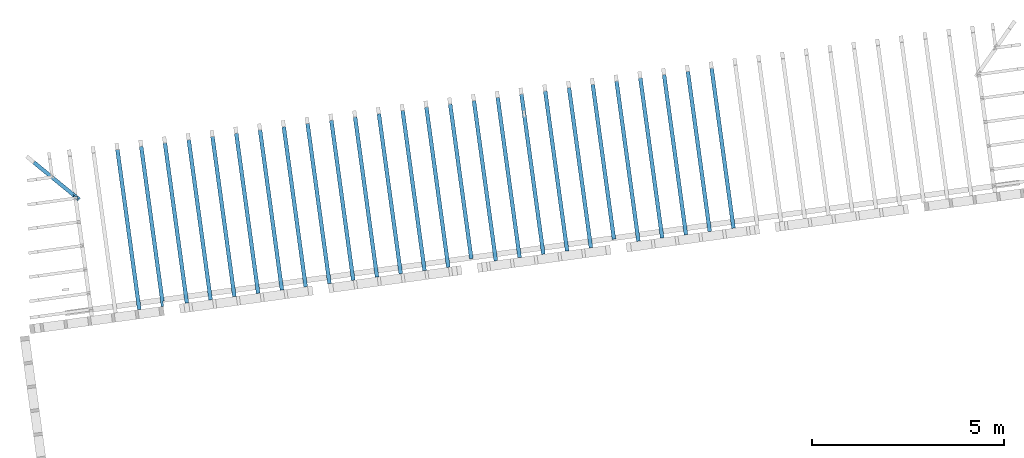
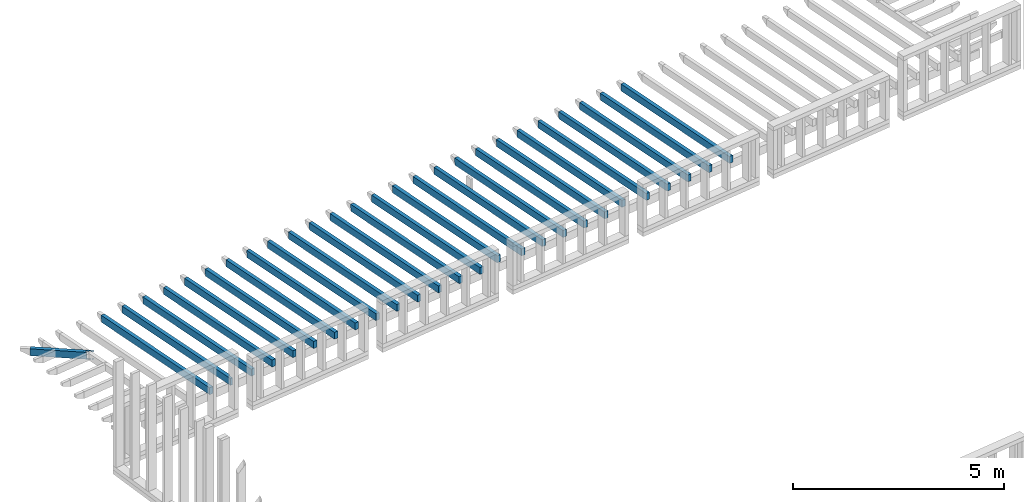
# One storey, part 10 of 16: 27 building element parts, 27 elements without a shape of their own.
"""IFC2X3 building model written with IfcOpenShell, lengths in metres."""

from ifc_helpers import new_model, entity, si_unit, converted_unit, derived_unit, money_unit, direction, frame, origin_with_axes, place, context, subcontext, project, spatial, faceted_brep, material, type_object, element, aggregate, save


model = new_model("IFC2X3")

# Units and contexts
model_context = context("Model", 3, precision=1e-05, world=origin_with_axes(), true_north=direction((0.0, 1.0)))
body_context = subcontext(model_context, "Body", "Model", "MODEL_VIEW")
ifc_project = project(units=[si_unit("LENGTHUNIT", "METRE"), si_unit("AREAUNIT", "SQUARE_METRE"), si_unit("VOLUMEUNIT", "CUBIC_METRE"), converted_unit("PLANEANGLEUNIT", "DEGREE", entity("IfcPlaneAngleMeasure", 0.0174532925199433), si_unit("PLANEANGLEUNIT", "RADIAN"), dimensions=[0, 0, 0, 0, 0, 0, 0]), money_unit("EUR"), converted_unit("TIMEUNIT", "Year", entity("IfcTimeMeasure", 31557600.0), si_unit("TIMEUNIT", "SECOND"), dimensions=[0, 0, 1, 0, 0, 0, 0]), si_unit("MASSUNIT", "GRAM", prefix="KILO"), si_unit("THERMODYNAMICTEMPERATUREUNIT", "DEGREE_CELSIUS"), si_unit("LUMINOUSINTENSITYUNIT", "LUMEN"), si_unit("ENERGYUNIT", "JOULE", prefix="MEGA"), derived_unit("THERMALCONDUCTANCEUNIT", [(si_unit("POWERUNIT", "WATT"), 1), (si_unit("LENGTHUNIT", "METRE"), -1), (si_unit("THERMODYNAMICTEMPERATUREUNIT", "KELVIN"), -1)]), derived_unit("SPECIFICHEATCAPACITYUNIT", [(si_unit("ENERGYUNIT", "JOULE"), 1), (si_unit("MASSUNIT", "GRAM", prefix="KILO"), -1), (si_unit("THERMODYNAMICTEMPERATUREUNIT", "KELVIN"), -1)]), derived_unit("MASSDENSITYUNIT", [(si_unit("MASSUNIT", "GRAM", prefix="KILO"), 1), (si_unit("VOLUMEUNIT", "CUBIC_METRE"), -1)])], contexts=[model_context])

# Site, building, storey
site_placement = place(None, origin_with_axes())
site = spatial("IfcSite", under=ifc_project, at=site_placement, Name="Gelände", CompositionType="ELEMENT")
building_placement = place(site_placement, origin_with_axes())
building = spatial("IfcBuilding", under=site, at=building_placement, Name="Gebäude", CompositionType="ELEMENT")
storey_placement = place(building_placement, frame((0.0, 0.0, 3.0), z_axis=(0.0, 0.0, 1.0), x_axis=(1.0, 0.0, 0.0)))
storey = spatial("IfcBuildingStorey", under=building, at=storey_placement, Name="ZG", CompositionType="ELEMENT", Elevation=3.0)

# Beam, building element part
beam_type_1 = type_object("IfcBeamType", Name="Verschiedene Strukturen - 2 Segmente - 100 x 200 x 4381 (4214+167)", PredefinedType="NOTDEFINED")
beam_1_placement = place(storey_placement, frame((101.7599355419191, -133.3067339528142, 1.028226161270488), z_axis=(0.0, 0.0, 1.0), x_axis=(0.9907484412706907, 0.1357111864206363, 0.0)))
beam_1 = element("IfcBeam", 1, at=beam_1_placement, inside=storey, type_object=beam_type_1, Name="Unterzug-034")
ifc_material = material(Name="Holz, Bauholz-hart")
building_element_part_1_placement = place(beam_1_placement, origin_with_axes())
building_element_part_1 = element("IfcBuildingElementPart", 2, at=building_element_part_1_placement, material=ifc_material, Name="Holz, Bauholz-hart", context=body_context, shape_type="Brep", body=[
    faceted_brep([(-0.04999999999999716, 0.0, -0.2002744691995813), (-0.05000000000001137, 4.197525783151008, -0.4202574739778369), (0.04999999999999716, 4.197525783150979, -0.4202574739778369), (0.04999999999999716, 0.0, -0.2002744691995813), (-0.04999999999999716, 0.0, 0.0), (-0.05000000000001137, 4.207992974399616, -0.2205315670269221), (0.04999999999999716, 4.207992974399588, -0.2205315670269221), (0.04999999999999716, 0.0, 0.0)], [[[0, 1, 2, 3]], [[4, 5, 1, 0]], [[2, 1, 5, 6]], [[3, 2, 6, 7]], [[4, 0, 3, 7]], [[7, 6, 5, 4]]]),
])
aggregate(beam_1, [building_element_part_1])

beam_2_placement = place(storey_placement, frame((102.3791533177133, -133.2219144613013, 1.028226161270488), z_axis=(0.0, 0.0, 1.0), x_axis=(0.9907484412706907, 0.1357111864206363, 0.0)))
beam_2 = element("IfcBeam", 3, at=beam_2_placement, inside=storey, type_object=beam_type_1, Name="Unterzug-034")
building_element_part_2_placement = place(beam_2_placement, origin_with_axes())
building_element_part_2 = element("IfcBuildingElementPart", 4, at=building_element_part_2_placement, material=ifc_material, Name="Holz, Bauholz-hart", context=body_context, shape_type="Brep", body=[
    faceted_brep([(-0.04999999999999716, 0.0, -0.2002744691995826), (-0.04999999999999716, 4.197525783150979, -0.4202574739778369), (0.05000000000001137, 4.197525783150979, -0.4202574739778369), (0.04999999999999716, 0.0, -0.2002744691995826), (-0.04999999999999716, 0.0, 0.0), (-0.04999999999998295, 4.207992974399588, -0.2205315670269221), (0.05000000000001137, 4.207992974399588, -0.2205315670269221), (0.04999999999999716, 0.0, 0.0)], [[[0, 1, 2, 3]], [[4, 5, 1, 0]], [[2, 1, 5, 6]], [[3, 2, 6, 7]], [[4, 0, 3, 7]], [[7, 6, 5, 4]]]),
])
aggregate(beam_2, [building_element_part_2])

beam_3_placement = place(storey_placement, frame((102.9983710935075, -133.1370949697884, 1.028226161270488), z_axis=(0.0, 0.0, 1.0), x_axis=(0.9907484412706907, 0.1357111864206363, 0.0)))
beam_3 = element("IfcBeam", 5, at=beam_3_placement, inside=storey, type_object=beam_type_1, Name="Unterzug-034")
building_element_part_3_placement = place(beam_3_placement, origin_with_axes())
building_element_part_3 = element("IfcBuildingElementPart", 6, at=building_element_part_3_placement, material=ifc_material, Name="Holz, Bauholz-hart", context=body_context, shape_type="Brep", body=[
    faceted_brep([(-0.04999999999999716, 0.0, -0.2002744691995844), (-0.04999999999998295, 4.197525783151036, -0.4202574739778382), (0.05000000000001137, 4.197525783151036, -0.4202574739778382), (0.05000000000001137, 0.0, -0.2002744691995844), (-0.04999999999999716, 0.0, 0.0), (-0.04999999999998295, 4.207992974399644, -0.2205315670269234), (0.05000000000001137, 4.207992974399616, -0.2205315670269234), (0.05000000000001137, 0.0, 0.0)], [[[0, 1, 2, 3]], [[4, 5, 1, 0]], [[2, 1, 5, 6]], [[3, 2, 6, 7]], [[4, 0, 3, 7]], [[7, 6, 5, 4]]]),
])
aggregate(beam_3, [building_element_part_3])

beam_4_placement = place(storey_placement, frame((100.5214999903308, -133.47637293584, 1.028226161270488), z_axis=(0.0, 0.0, 1.0), x_axis=(0.9907484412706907, 0.1357111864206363, 0.0)))
beam_4 = element("IfcBeam", 7, at=beam_4_placement, inside=storey, type_object=beam_type_1, Name="Unterzug-034")
building_element_part_4_placement = place(beam_4_placement, origin_with_axes())
building_element_part_4 = element("IfcBuildingElementPart", 8, at=building_element_part_4_placement, material=ifc_material, Name="Holz, Bauholz-hart", context=body_context, shape_type="Brep", body=[
    faceted_brep([(-0.05000000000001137, 0.0, -0.2002744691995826), (-0.05000000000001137, 4.197525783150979, -0.4202574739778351), (0.04999999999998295, 4.197525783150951, -0.4202574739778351), (0.04999999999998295, 0.0, -0.2002744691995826), (-0.05000000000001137, 0.0, 0.0), (-0.05000000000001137, 4.207992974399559, -0.2205315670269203), (0.04999999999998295, 4.207992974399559, -0.2205315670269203), (0.04999999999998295, 0.0, 0.0)], [[[0, 1, 2, 3]], [[4, 5, 1, 0]], [[2, 1, 5, 6]], [[3, 2, 6, 7]], [[4, 0, 3, 7]], [[7, 6, 5, 4]]]),
])
aggregate(beam_4, [building_element_part_4])

beam_5_placement = place(storey_placement, frame((101.1407177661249, -133.3915534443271, 1.028226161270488), z_axis=(0.0, 0.0, 1.0), x_axis=(0.9907484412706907, 0.1357111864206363, 0.0)))
beam_5 = element("IfcBeam", 9, at=beam_5_placement, inside=storey, type_object=beam_type_1, Name="Unterzug-034")
building_element_part_5_placement = place(beam_5_placement, origin_with_axes())
building_element_part_5 = element("IfcBuildingElementPart", 10, at=building_element_part_5_placement, material=ifc_material, Name="Holz, Bauholz-hart", context=body_context, shape_type="Brep", body=[
    faceted_brep([(-0.04999999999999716, 0.0, -0.2002744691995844), (-0.04999999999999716, 4.197525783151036, -0.4202574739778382), (0.05000000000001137, 4.197525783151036, -0.4202574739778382), (0.04999999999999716, 0.0, -0.2002744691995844), (-0.04999999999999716, 0.0, 0.0), (-0.04999999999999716, 4.207992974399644, -0.2205315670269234), (0.05000000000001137, 4.207992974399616, -0.2205315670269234), (0.04999999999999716, 0.0, 0.0)], [[[0, 1, 2, 3]], [[4, 5, 1, 0]], [[2, 1, 5, 6]], [[3, 2, 6, 7]], [[4, 0, 3, 7]], [[7, 6, 5, 4]]]),
])
aggregate(beam_5, [building_element_part_5])

beam_6_placement = place(storey_placement, frame((98.6638466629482, -133.7308314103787, 1.028226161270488), z_axis=(0.0, 0.0, 1.0), x_axis=(0.9907484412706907, 0.1357111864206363, 0.0)))
beam_6 = element("IfcBeam", 11, at=beam_6_placement, inside=storey, type_object=beam_type_1, Name="Unterzug-034")
building_element_part_6_placement = place(beam_6_placement, origin_with_axes())
building_element_part_6 = element("IfcBuildingElementPart", 12, at=building_element_part_6_placement, material=ifc_material, Name="Holz, Bauholz-hart", context=body_context, shape_type="Brep", body=[
    faceted_brep([(-0.04999999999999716, 0.0, -0.2002744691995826), (-0.04999999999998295, 4.197525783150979, -0.4202574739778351), (0.04999999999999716, 4.197525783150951, -0.4202574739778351), (0.05000000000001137, 0.0, -0.2002744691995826), (-0.04999999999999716, 0.0, 0.0), (-0.04999999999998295, 4.207992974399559, -0.2205315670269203), (0.04999999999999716, 4.207992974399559, -0.2205315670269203), (0.05000000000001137, 0.0, 0.0)], [[[0, 1, 2, 3]], [[4, 5, 1, 0]], [[2, 1, 5, 6]], [[3, 2, 6, 7]], [[4, 0, 3, 7]], [[7, 6, 5, 4]]]),
])
aggregate(beam_6, [building_element_part_6])

beam_7_placement = place(storey_placement, frame((98.04462888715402, -133.8156509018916, 1.028226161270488), z_axis=(0.0, 0.0, 1.0), x_axis=(0.9907484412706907, 0.1357111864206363, 0.0)))
beam_7 = element("IfcBeam", 13, at=beam_7_placement, inside=storey, type_object=beam_type_1, Name="Unterzug-034")
building_element_part_7_placement = place(beam_7_placement, origin_with_axes())
building_element_part_7 = element("IfcBuildingElementPart", 14, at=building_element_part_7_placement, material=ifc_material, Name="Holz, Bauholz-hart", context=body_context, shape_type="Brep", body=[
    faceted_brep([(-0.04999999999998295, 0.0, -0.2002744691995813), (-0.04999999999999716, 4.197525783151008, -0.4202574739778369), (0.05000000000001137, 4.197525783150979, -0.4202574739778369), (0.04999999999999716, 0.0, -0.2002744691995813), (-0.04999999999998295, 0.0, 0.0), (-0.04999999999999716, 4.207992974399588, -0.2205315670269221), (0.05000000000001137, 4.207992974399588, -0.2205315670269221), (0.04999999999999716, 0.0, 0.0)], [[[0, 1, 2, 3]], [[4, 5, 1, 0]], [[2, 1, 5, 6]], [[3, 2, 6, 7]], [[4, 0, 3, 7]], [[7, 6, 5, 4]]]),
])
aggregate(beam_7, [building_element_part_7])

beam_type_2 = type_object("IfcBeamType", Name="Verschiedene Strukturen - 2 Segmente - 100 x 200 x 1775 (1532+243)", PredefinedType="NOTDEFINED")
beam_8_placement = place(storey_placement, frame((85.85258350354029, -132.3106168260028, 0.8633666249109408), z_axis=(0.0, 0.0, 1.0), x_axis=(0.6344192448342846, 0.7729891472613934, 0.0)))
beam_8 = element("IfcBeam", 15, at=beam_8_placement, inside=storey, type_object=beam_type_2, Name="Unterzug-034")
building_element_part_8_placement = place(beam_8_placement, origin_with_axes())
building_element_part_8 = element("IfcBuildingElementPart", 16, at=building_element_part_8_placement, material=ifc_material, Name="Holz, Bauholz-hart", context=body_context, shape_type="Brep", body=[
    faceted_brep([(0.03318319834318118, -0.03775219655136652, 0.001451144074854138), (3.484915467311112e-07, -0.006999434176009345, 0.0002690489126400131), (0.03318319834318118, -0.03775219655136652, 0.000269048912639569), (0.01114207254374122, -0.06153501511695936, 0.002365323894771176), (3.253634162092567e-07, -0.06153501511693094, 0.002365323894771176), (3.202648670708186e-07, -0.07355719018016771, 0.002827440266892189), (3.202648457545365e-07, -0.1275085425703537, 0.004901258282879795), (0.05000000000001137, -0.1275085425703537, 0.004901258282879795), (0.05000000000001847, 1.403264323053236, -0.05393960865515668), (-0.04999999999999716, 1.403264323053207, -0.05393960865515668), (-0.05000000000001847, 0.0393392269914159, -0.001512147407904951), (-0.04016211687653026, 0.03022180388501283, -0.001161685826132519), (3.826553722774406e-07, 0.0735579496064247, -0.002827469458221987), (0.04999999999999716, 0.1275085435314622, -0.006682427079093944), (0.05000000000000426, -0.01960652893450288, -0.001027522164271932), (0.005994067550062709, -0.06708981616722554, 0.002365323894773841), (0.05000000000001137, -0.1275085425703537, 0.003120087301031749), (0.04999999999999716, 0.1275085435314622, -0.2050489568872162), (0.04999999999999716, 1.395582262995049, -0.2537920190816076), (-0.04999999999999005, 1.395582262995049, -0.2537920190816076), (-0.04999999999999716, -0.02233682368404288, -0.197634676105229), (-0.05000000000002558, 0.0196065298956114, -0.1992469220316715), (-0.05000000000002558, 0.0196065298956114, -0.197634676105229), (-0.05000000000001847, 0.0393392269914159, -0.197634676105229), (-0.04999999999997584, -0.06537746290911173, -0.197634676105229), (-0.04016211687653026, 0.03022180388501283, -0.197634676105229), (-0.003558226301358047, 0.06971813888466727, -0.2028275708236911), (-0.003558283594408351, -0.06537746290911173, -0.197634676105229)], [[[0, 1, 2]], [[3, 4, 5, 6, 7, 8, 9, 10, 11, 12, 1, 0]], [[13, 14, 2, 1, 12]], [[3, 0, 2, 15]], [[3, 15, 4]], [[4, 15, 5]], [[6, 5, 15, 2, 14, 16]], [[6, 16, 7]], [[14, 13, 17, 18, 8, 7, 16]], [[19, 9, 8, 18]], [[20, 21, 22, 23, 10, 9, 19, 24]], [[23, 25, 11, 10]], [[11, 25, 22, 21, 26, 17, 13, 12]], [[17, 26, 27, 24, 19, 18]], [[21, 20, 27, 26]], [[23, 22, 25]], [[24, 27, 20]]]),
    faceted_brep([(-0.003558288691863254, -0.07739700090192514, -0.1971726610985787), (-0.02119600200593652, -0.09642844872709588, -0.1958127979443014), (-0.05000000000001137, -0.1275085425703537, -0.1935920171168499), (-0.003558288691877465, -0.1275085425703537, -0.1952464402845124), (-0.02119600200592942, -0.0964284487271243, -0.1964411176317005), (-0.04999999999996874, -0.06973386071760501, -0.1958127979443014), (-0.04999999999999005, -0.1275085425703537, -0.1952464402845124), (-0.04999999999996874, -0.06973386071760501, -0.197467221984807)], [[[0, 1, 2, 3]], [[0, 4, 1]], [[1, 5, 2]], [[3, 2, 6]], [[6, 7, 4, 0, 3]], [[7, 5, 1, 4]], [[6, 2, 5, 7]]]),
])
aggregate(beam_8, [building_element_part_8])

beam_9_placement = place(storey_placement, frame((87.51792669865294, -135.2575822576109, 1.028226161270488), z_axis=(0.0, 0.0, 1.0), x_axis=(0.9907484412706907, 0.1357111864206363, 0.0)))
beam_9 = element("IfcBeam", 17, at=beam_9_placement, inside=storey, type_object=beam_type_1, Name="Unterzug-034")
building_element_part_9_placement = place(beam_9_placement, origin_with_axes())
building_element_part_9 = element("IfcBuildingElementPart", 18, at=building_element_part_9_placement, material=ifc_material, Name="Holz, Bauholz-hart", context=body_context, shape_type="Brep", body=[
    faceted_brep([(-0.04999999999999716, 0.0, -0.2002744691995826), (-0.04999999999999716, 4.197525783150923, -0.4202574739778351), (0.04999999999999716, 4.197525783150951, -0.4202574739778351), (0.04999999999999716, 0.0, -0.2002744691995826), (-0.04999999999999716, 0.0, 0.0), (-0.04999999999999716, 4.207992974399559, -0.2205315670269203), (0.04999999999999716, 4.207992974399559, -0.2205315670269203), (0.04999999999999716, 0.0, 0.0)], [[[0, 1, 2, 3]], [[4, 5, 1, 0]], [[2, 1, 5, 6]], [[3, 2, 6, 7]], [[4, 0, 3, 7]], [[7, 6, 5, 4]]]),
])
aggregate(beam_9, [building_element_part_9])

beam_10_placement = place(storey_placement, frame((88.13714447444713, -135.172762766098, 1.028226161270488), z_axis=(0.0, 0.0, 1.0), x_axis=(0.9907484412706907, 0.1357111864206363, 0.0)))
beam_10 = element("IfcBeam", 19, at=beam_10_placement, inside=storey, type_object=beam_type_1, Name="Unterzug-034")
building_element_part_10_placement = place(beam_10_placement, origin_with_axes())
building_element_part_10 = element("IfcBuildingElementPart", 20, at=building_element_part_10_placement, material=ifc_material, Name="Holz, Bauholz-hart", context=body_context, shape_type="Brep", body=[
    faceted_brep([(0.01459982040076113, 0.0, 0.0), (0.01459982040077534, 0.1379529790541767, -0.007229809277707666), (0.05000000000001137, 0.1379529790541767, -0.007229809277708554), (0.04999999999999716, 4.207992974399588, -0.2205315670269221), (-0.05000000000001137, 4.207992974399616, -0.2205315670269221), (-0.04999999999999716, 0.0, 0.0), (0.01459982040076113, 0.0, -0.2002744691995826), (0.01459982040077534, 0.1379529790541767, -0.2075042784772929), (0.05000000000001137, 0.1379529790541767, -0.2075042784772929), (0.04999999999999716, 4.197525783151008, -0.4202574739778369), (-0.05000000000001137, 4.197525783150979, -0.4202574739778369), (-0.04999999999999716, 0.0, -0.2002744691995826)], [[[0, 1, 2, 3, 4, 5]], [[1, 0, 6, 7]], [[8, 2, 1, 7]], [[2, 8, 9, 3]], [[3, 9, 10, 4]], [[11, 5, 4, 10]], [[6, 0, 5, 11]], [[7, 6, 11, 10, 9, 8]]]),
])
aggregate(beam_10, [building_element_part_10])

beam_11_placement = place(storey_placement, frame((89.37558002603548, -135.0031237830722, 1.028226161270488), z_axis=(0.0, 0.0, 1.0), x_axis=(0.9907484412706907, 0.1357111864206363, 0.0)))
beam_11 = element("IfcBeam", 21, at=beam_11_placement, inside=storey, type_object=beam_type_1, Name="Unterzug-034")
building_element_part_11_placement = place(beam_11_placement, origin_with_axes())
building_element_part_11 = element("IfcBuildingElementPart", 22, at=building_element_part_11_placement, material=ifc_material, Name="Holz, Bauholz-hart", context=body_context, shape_type="Brep", body=[
    faceted_brep([(-0.04999999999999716, 0.0, -0.2002744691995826), (-0.04999999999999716, 4.197525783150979, -0.4202574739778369), (0.05000000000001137, 4.197525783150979, -0.4202574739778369), (0.05000000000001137, 0.0, -0.2002744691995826), (-0.04999999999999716, 0.0, 0.0), (-0.04999999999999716, 4.207992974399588, -0.2205315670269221), (0.05000000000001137, 4.207992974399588, -0.2205315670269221), (0.05000000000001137, 0.0, 0.0)], [[[0, 1, 2, 3]], [[4, 5, 1, 0]], [[2, 1, 5, 6]], [[3, 2, 6, 7]], [[4, 0, 3, 7]], [[7, 6, 5, 4]]]),
])
aggregate(beam_11, [building_element_part_11])

beam_12_placement = place(storey_placement, frame((88.75636225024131, -135.0879432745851, 1.028226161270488), z_axis=(0.0, 0.0, 1.0), x_axis=(0.9907484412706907, 0.1357111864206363, 0.0)))
beam_12 = element("IfcBeam", 23, at=beam_12_placement, inside=storey, type_object=beam_type_1, Name="Unterzug-034")
building_element_part_12_placement = place(beam_12_placement, origin_with_axes())
building_element_part_12 = element("IfcBuildingElementPart", 24, at=building_element_part_12_placement, material=ifc_material, Name="Holz, Bauholz-hart", context=body_context, shape_type="Brep", body=[
    faceted_brep([(-0.04999999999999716, 0.0, -0.2002744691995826), (-0.04999999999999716, 4.197525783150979, -0.4202574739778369), (0.04999999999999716, 4.197525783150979, -0.4202574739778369), (0.04999999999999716, 0.0, -0.2002744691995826), (-0.04999999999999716, 0.0, 0.0), (-0.04999999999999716, 4.207992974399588, -0.2205315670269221), (0.04999999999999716, 4.207992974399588, -0.2205315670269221), (0.04999999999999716, 0.0, 0.0)], [[[0, 1, 2, 3]], [[4, 5, 1, 0]], [[2, 1, 5, 6]], [[3, 2, 6, 7]], [[4, 0, 3, 7]], [[7, 6, 5, 4]]]),
])
aggregate(beam_12, [building_element_part_12])

beam_13_placement = place(storey_placement, frame((89.99479780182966, -134.9183042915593, 1.028226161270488), z_axis=(0.0, 0.0, 1.0), x_axis=(0.9907484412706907, 0.1357111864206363, 0.0)))
beam_13 = element("IfcBeam", 25, at=beam_13_placement, inside=storey, type_object=beam_type_1, Name="Unterzug-034")
building_element_part_13_placement = place(beam_13_placement, origin_with_axes())
building_element_part_13 = element("IfcBuildingElementPart", 26, at=building_element_part_13_placement, material=ifc_material, Name="Holz, Bauholz-hart", context=body_context, shape_type="Brep", body=[
    faceted_brep([(-0.04999999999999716, 0.0, -0.2002744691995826), (-0.04999999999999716, 4.197525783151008, -0.4202574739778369), (0.04999999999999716, 4.197525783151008, -0.4202574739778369), (0.05000000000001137, 0.0, -0.2002744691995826), (-0.04999999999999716, 0.0, 0.0), (-0.04999999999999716, 4.207992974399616, -0.2205315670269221), (0.05000000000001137, 4.207992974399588, -0.2205315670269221), (0.05000000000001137, 0.0, 0.0)], [[[0, 1, 2, 3]], [[4, 5, 1, 0]], [[2, 1, 5, 6]], [[3, 2, 6, 7]], [[4, 0, 3, 7]], [[7, 6, 5, 4]]]),
])
aggregate(beam_13, [building_element_part_13])

beam_14_placement = place(storey_placement, frame((90.61401557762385, -134.8334848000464, 1.028226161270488), z_axis=(0.0, 0.0, 1.0), x_axis=(0.9907484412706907, 0.1357111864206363, 0.0)))
beam_14 = element("IfcBeam", 27, at=beam_14_placement, inside=storey, type_object=beam_type_1, Name="Unterzug-034")
building_element_part_14_placement = place(beam_14_placement, origin_with_axes())
building_element_part_14 = element("IfcBuildingElementPart", 28, at=building_element_part_14_placement, material=ifc_material, Name="Holz, Bauholz-hart", context=body_context, shape_type="Brep", body=[
    faceted_brep([(-0.05000000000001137, 0.0, -0.2002744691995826), (-0.04999999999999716, 4.197525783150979, -0.4202574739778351), (0.04999999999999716, 4.197525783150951, -0.4202574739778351), (0.04999999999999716, 0.0, -0.2002744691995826), (-0.05000000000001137, 0.0, 0.0), (-0.04999999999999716, 4.207992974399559, -0.2205315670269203), (0.04999999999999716, 4.207992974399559, -0.2205315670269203), (0.04999999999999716, 0.0, 0.0)], [[[0, 1, 2, 3]], [[4, 5, 1, 0]], [[2, 1, 5, 6]], [[3, 2, 6, 7]], [[4, 0, 3, 7]], [[7, 6, 5, 4]]]),
])
aggregate(beam_14, [building_element_part_14])

beam_15_placement = place(storey_placement, frame((91.23323335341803, -134.7486653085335, 1.028226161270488), z_axis=(0.0, 0.0, 1.0), x_axis=(0.9907484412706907, 0.1357111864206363, 0.0)))
beam_15 = element("IfcBeam", 29, at=beam_15_placement, inside=storey, type_object=beam_type_1, Name="Unterzug-034")
building_element_part_15_placement = place(beam_15_placement, origin_with_axes())
building_element_part_15 = element("IfcBuildingElementPart", 30, at=building_element_part_15_placement, material=ifc_material, Name="Holz, Bauholz-hart", context=body_context, shape_type="Brep", body=[
    faceted_brep([(-0.05000000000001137, 0.0, -0.2002744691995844), (-0.04999999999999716, 4.197525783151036, -0.4202574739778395), (0.05000000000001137, 4.197525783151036, -0.4202574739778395), (0.04999999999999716, 0.0, -0.2002744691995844), (-0.05000000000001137, 0.0, 0.0), (-0.04999999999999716, 4.207992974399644, -0.2205315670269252), (0.04999999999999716, 4.207992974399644, -0.2205315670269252), (0.04999999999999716, 0.0, 0.0)], [[[0, 1, 2, 3]], [[4, 5, 1, 0]], [[2, 1, 5, 6]], [[3, 2, 6, 7]], [[4, 0, 3, 7]], [[7, 6, 5, 4]]]),
])
aggregate(beam_15, [building_element_part_15])

beam_16_placement = place(storey_placement, frame((92.4716689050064, -134.5790263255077, 1.028226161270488), z_axis=(0.0, 0.0, 1.0), x_axis=(0.9907484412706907, 0.1357111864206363, 0.0)))
beam_16 = element("IfcBeam", 31, at=beam_16_placement, inside=storey, type_object=beam_type_1, Name="Unterzug-034")
building_element_part_16_placement = place(beam_16_placement, origin_with_axes())
building_element_part_16 = element("IfcBuildingElementPart", 32, at=building_element_part_16_placement, material=ifc_material, Name="Holz, Bauholz-hart", context=body_context, shape_type="Brep", body=[
    faceted_brep([(-0.04999999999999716, 0.0, -0.2002744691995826), (-0.04999999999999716, 4.197525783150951, -0.4202574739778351), (0.04999999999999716, 4.197525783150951, -0.4202574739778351), (0.04999999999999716, 0.0, -0.2002744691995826), (-0.04999999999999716, 0.0, 0.0), (-0.04999999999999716, 4.207992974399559, -0.2205315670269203), (0.04999999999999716, 4.207992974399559, -0.2205315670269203), (0.04999999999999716, 0.0, 0.0)], [[[0, 1, 2, 3]], [[4, 5, 1, 0]], [[2, 1, 5, 6]], [[3, 2, 6, 7]], [[4, 0, 3, 7]], [[7, 6, 5, 4]]]),
])
aggregate(beam_16, [building_element_part_16])

beam_17_placement = place(storey_placement, frame((91.85245112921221, -134.6638458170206, 1.028226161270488), z_axis=(0.0, 0.0, 1.0), x_axis=(0.9907484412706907, 0.1357111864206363, 0.0)))
beam_17 = element("IfcBeam", 33, at=beam_17_placement, inside=storey, type_object=beam_type_1, Name="Unterzug-034")
building_element_part_17_placement = place(beam_17_placement, origin_with_axes())
building_element_part_17 = element("IfcBuildingElementPart", 34, at=building_element_part_17_placement, material=ifc_material, Name="Holz, Bauholz-hart", context=body_context, shape_type="Brep", body=[
    faceted_brep([(-0.04999999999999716, 0.0, -0.2002744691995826), (-0.05000000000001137, 4.197525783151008, -0.4202574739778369), (0.04999999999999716, 4.197525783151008, -0.4202574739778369), (0.04999999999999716, 0.0, -0.2002744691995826), (-0.04999999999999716, 0.0, 0.0), (-0.05000000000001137, 4.207992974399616, -0.2205315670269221), (0.04999999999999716, 4.207992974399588, -0.2205315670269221), (0.04999999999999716, 0.0, 0.0)], [[[0, 1, 2, 3]], [[4, 5, 1, 0]], [[2, 1, 5, 6]], [[3, 2, 6, 7]], [[4, 0, 3, 7]], [[7, 6, 5, 4]]]),
])
aggregate(beam_17, [building_element_part_17])

beam_18_placement = place(storey_placement, frame((93.09088668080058, -134.4942068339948, 1.028226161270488), z_axis=(0.0, 0.0, 1.0), x_axis=(0.9907484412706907, 0.1357111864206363, 0.0)))
beam_18 = element("IfcBeam", 35, at=beam_18_placement, inside=storey, type_object=beam_type_1, Name="Unterzug-034")
building_element_part_18_placement = place(beam_18_placement, origin_with_axes())
building_element_part_18 = element("IfcBuildingElementPart", 36, at=building_element_part_18_placement, material=ifc_material, Name="Holz, Bauholz-hart", context=body_context, shape_type="Brep", body=[
    faceted_brep([(-0.04999999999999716, 0.0, -0.2002744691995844), (-0.04999999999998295, 4.197525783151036, -0.4202574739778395), (0.04999999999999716, 4.197525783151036, -0.4202574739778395), (0.04999999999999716, 0.0, -0.2002744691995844), (-0.04999999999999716, 0.0, 0.0), (-0.04999999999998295, 4.207992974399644, -0.2205315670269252), (0.04999999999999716, 4.207992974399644, -0.2205315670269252), (0.04999999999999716, 0.0, 0.0)], [[[0, 1, 2, 3]], [[4, 5, 1, 0]], [[2, 1, 5, 6]], [[3, 2, 6, 7]], [[4, 0, 3, 7]], [[7, 6, 5, 4]]]),
])
aggregate(beam_18, [building_element_part_18])

beam_19_placement = place(storey_placement, frame((93.71010445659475, -134.4093873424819, 1.028226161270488), z_axis=(0.0, 0.0, 1.0), x_axis=(0.9907484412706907, 0.1357111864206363, 0.0)))
beam_19 = element("IfcBeam", 37, at=beam_19_placement, inside=storey, type_object=beam_type_1, Name="Unterzug-034")
building_element_part_19_placement = place(beam_19_placement, origin_with_axes())
building_element_part_19 = element("IfcBuildingElementPart", 38, at=building_element_part_19_placement, material=ifc_material, Name="Holz, Bauholz-hart", context=body_context, shape_type="Brep", body=[
    faceted_brep([(-0.04999999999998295, 0.0, -0.2002744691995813), (-0.04999999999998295, 4.197525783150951, -0.4202574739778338), (0.05000000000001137, 4.197525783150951, -0.4202574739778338), (0.05000000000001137, 0.0, -0.2002744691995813), (-0.04999999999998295, 0.0, 0.0), (-0.04999999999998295, 4.207992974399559, -0.220531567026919), (0.04999999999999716, 4.207992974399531, -0.220531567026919), (0.05000000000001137, 0.0, 0.0)], [[[0, 1, 2, 3]], [[4, 5, 1, 0]], [[2, 1, 5, 6]], [[3, 2, 6, 7]], [[4, 0, 3, 7]], [[7, 6, 5, 4]]]),
])
aggregate(beam_19, [building_element_part_19])

beam_20_placement = place(storey_placement, frame((94.32932223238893, -134.324567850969, 1.028226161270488), z_axis=(0.0, 0.0, 1.0), x_axis=(0.9907484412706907, 0.1357111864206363, 0.0)))
beam_20 = element("IfcBeam", 39, at=beam_20_placement, inside=storey, type_object=beam_type_1, Name="Unterzug-034")
building_element_part_20_placement = place(beam_20_placement, origin_with_axes())
building_element_part_20 = element("IfcBuildingElementPart", 40, at=building_element_part_20_placement, material=ifc_material, Name="Holz, Bauholz-hart", context=body_context, shape_type="Brep", body=[
    faceted_brep([(-0.04999999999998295, 0.0, -0.2002744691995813), (-0.04999999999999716, 4.197525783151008, -0.4202574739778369), (0.05000000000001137, 4.197525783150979, -0.4202574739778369), (0.05000000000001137, 0.0, -0.2002744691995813), (-0.04999999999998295, 0.0, 0.0), (-0.04999999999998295, 4.207992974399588, -0.2205315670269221), (0.05000000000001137, 4.207992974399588, -0.2205315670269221), (0.05000000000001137, 0.0, 0.0)], [[[0, 1, 2, 3]], [[4, 5, 1, 0]], [[2, 1, 5, 6]], [[3, 2, 6, 7]], [[4, 0, 3, 7]], [[7, 6, 5, 4]]]),
])
aggregate(beam_20, [building_element_part_20])

beam_21_placement = place(storey_placement, frame((94.94854000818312, -134.2397483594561, 1.028226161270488), z_axis=(0.0, 0.0, 1.0), x_axis=(0.9907484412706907, 0.1357111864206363, 0.0)))
beam_21 = element("IfcBeam", 41, at=beam_21_placement, inside=storey, type_object=beam_type_1, Name="Unterzug-034")
building_element_part_21_placement = place(beam_21_placement, origin_with_axes())
building_element_part_21 = element("IfcBuildingElementPart", 42, at=building_element_part_21_placement, material=ifc_material, Name="Holz, Bauholz-hart", context=body_context, shape_type="Brep", body=[
    faceted_brep([(-0.05000000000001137, 0.0, -0.2002744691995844), (-0.04999999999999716, 4.197525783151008, -0.4202574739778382), (0.04999999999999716, 4.197525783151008, -0.4202574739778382), (0.04999999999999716, 0.0, -0.2002744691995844), (-0.05000000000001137, 0.0, 0.0), (-0.04999999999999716, 4.207992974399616, -0.2205315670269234), (0.04999999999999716, 4.207992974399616, -0.2205315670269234), (0.04999999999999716, 0.0, 0.0)], [[[0, 1, 2, 3]], [[4, 5, 1, 0]], [[2, 1, 5, 6]], [[3, 2, 6, 7]], [[4, 0, 3, 7]], [[7, 6, 5, 4]]]),
])
aggregate(beam_21, [building_element_part_21])

beam_22_placement = place(storey_placement, frame((95.5677577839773, -134.1549288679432, 1.028226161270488), z_axis=(0.0, 0.0, 1.0), x_axis=(0.9907484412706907, 0.1357111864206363, 0.0)))
beam_22 = element("IfcBeam", 43, at=beam_22_placement, inside=storey, type_object=beam_type_1, Name="Unterzug-034")
building_element_part_22_placement = place(beam_22_placement, origin_with_axes())
building_element_part_22 = element("IfcBuildingElementPart", 44, at=building_element_part_22_placement, material=ifc_material, Name="Holz, Bauholz-hart", context=body_context, shape_type="Brep", body=[
    faceted_brep([(-0.04999999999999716, 0.0, -0.2002744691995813), (-0.04999999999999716, 4.197525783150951, -0.4202574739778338), (0.05000000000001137, 4.197525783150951, -0.4202574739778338), (0.04999999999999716, 0.0, -0.2002744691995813), (-0.04999999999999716, 0.0, 0.0), (-0.04999999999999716, 4.207992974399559, -0.220531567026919), (0.04999999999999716, 4.207992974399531, -0.220531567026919), (0.04999999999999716, 0.0, 0.0)], [[[0, 1, 2, 3]], [[4, 5, 1, 0]], [[2, 1, 5, 6]], [[3, 2, 6, 7]], [[4, 0, 3, 7]], [[7, 6, 5, 4]]]),
])
aggregate(beam_22, [building_element_part_22])

beam_type_3 = type_object("IfcBeamType", Name="Verschiedene Strukturen - 2 Segmente - 100 x 200 x 4243 (4076+167)", PredefinedType="NOTDEFINED")
beam_23_placement = place(storey_placement, frame((96.16824742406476, -133.9333861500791, 1.020993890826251), z_axis=(0.0, 0.0, 1.0), x_axis=(0.9907484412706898, 0.1357111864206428, 0.0)))
beam_23 = element("IfcBeam", 45, at=beam_23_placement, inside=storey, type_object=beam_type_3, Name="Unterzug-034")
building_element_part_23_placement = place(beam_23_placement, origin_with_axes())
building_element_part_23 = element("IfcBuildingElementPart", 46, at=building_element_part_23_placement, material=ifc_material, Name="Holz, Bauholz-hart", context=body_context, shape_type="Brep", body=[
    faceted_brep([(-0.05000000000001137, 0.0, -0.2002744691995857), (-0.04999999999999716, 4.059525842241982, -0.4130252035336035), (0.05000000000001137, 4.059525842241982, -0.4130252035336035), (0.05000000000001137, 0.0, -0.2002744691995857), (-0.05000000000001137, 0.0, 0.0), (-0.04999999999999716, 4.069993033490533, -0.2132992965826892), (0.04999999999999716, 4.069993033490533, -0.2132992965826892), (0.05000000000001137, 0.0, 0.0)], [[[0, 1, 2, 3]], [[4, 5, 1, 0]], [[2, 1, 5, 6]], [[3, 2, 6, 7]], [[4, 0, 3, 7]], [[7, 6, 5, 4]]]),
])
aggregate(beam_23, [building_element_part_23])

beam_24_placement = place(storey_placement, frame((97.42541111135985, -133.9004703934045, 1.028226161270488), z_axis=(0.0, 0.0, 1.0), x_axis=(0.9907484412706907, 0.1357111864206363, 0.0)))
beam_24 = element("IfcBeam", 47, at=beam_24_placement, inside=storey, type_object=beam_type_1, Name="Unterzug-034")
building_element_part_24_placement = place(beam_24_placement, origin_with_axes())
building_element_part_24 = element("IfcBuildingElementPart", 48, at=building_element_part_24_placement, material=ifc_material, Name="Holz, Bauholz-hart", context=body_context, shape_type="Brep", body=[
    faceted_brep([(-0.05000000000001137, 0.0, -0.2002744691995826), (-0.05000000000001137, 4.197525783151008, -0.4202574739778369), (0.04999999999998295, 4.197525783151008, -0.4202574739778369), (0.04999999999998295, 0.0, -0.2002744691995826), (-0.05000000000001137, 0.0, 0.0), (-0.05000000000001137, 4.207992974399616, -0.2205315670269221), (0.04999999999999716, 4.207992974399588, -0.2205315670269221), (0.04999999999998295, 0.0, 0.0)], [[[0, 1, 2, 3]], [[4, 5, 1, 0]], [[2, 1, 5, 6]], [[3, 2, 6, 7]], [[4, 0, 3, 7]], [[7, 6, 5, 4]]]),
])
aggregate(beam_24, [building_element_part_24])

beam_25_placement = place(storey_placement, frame((99.28306443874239, -133.6460119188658, 1.028226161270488), z_axis=(0.0, 0.0, 1.0), x_axis=(0.9907484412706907, 0.1357111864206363, 0.0)))
beam_25 = element("IfcBeam", 49, at=beam_25_placement, inside=storey, type_object=beam_type_1, Name="Unterzug-034")
building_element_part_25_placement = place(beam_25_placement, origin_with_axes())
building_element_part_25 = element("IfcBuildingElementPart", 50, at=building_element_part_25_placement, material=ifc_material, Name="Holz, Bauholz-hart", context=body_context, shape_type="Brep", body=[
    faceted_brep([(-0.04999999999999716, 0.0, -0.2002744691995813), (-0.04999999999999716, 4.197525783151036, -0.4202574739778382), (0.04999999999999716, 4.197525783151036, -0.4202574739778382), (0.04999999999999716, 0.0, -0.2002744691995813), (-0.04999999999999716, 0.0, 0.0), (-0.04999999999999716, 4.207992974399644, -0.2205315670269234), (0.04999999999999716, 4.207992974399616, -0.2205315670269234), (0.04999999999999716, 0.0, 0.0)], [[[0, 1, 2, 3]], [[4, 5, 1, 0]], [[2, 1, 5, 6]], [[3, 2, 6, 7]], [[4, 0, 3, 7]], [[7, 6, 5, 4]]]),
])
aggregate(beam_25, [building_element_part_25])

beam_26_placement = place(storey_placement, frame((99.88355408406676, -133.4244692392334, 1.020993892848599), z_axis=(0.0, 0.0, 1.0), x_axis=(0.9907484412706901, 0.1357111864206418, 0.0)))
beam_26 = element("IfcBeam", 51, at=beam_26_placement, inside=storey, type_object=beam_type_3, Name="Unterzug-034")
building_element_part_26_placement = place(beam_26_placement, origin_with_axes())
building_element_part_26 = element("IfcBuildingElementPart", 52, at=building_element_part_26_placement, material=ifc_material, Name="Holz, Bauholz-hart", context=body_context, shape_type="Brep", body=[
    faceted_brep([(-0.04999999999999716, 0.0, -0.2002744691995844), (-0.04999999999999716, 4.05952588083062, -0.4130252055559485), (0.04999999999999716, 4.05952588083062, -0.4130252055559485), (0.04999999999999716, 0.0, -0.2002744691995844), (-0.04999999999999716, 0.0, 0.0), (-0.04999999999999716, 4.069993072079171, -0.2132992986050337), (0.04999999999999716, 4.069993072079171, -0.2132992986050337), (0.04999999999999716, 0.0, 0.0)], [[[0, 1, 2, 3]], [[4, 5, 1, 0]], [[2, 1, 5, 6]], [[3, 2, 6, 7]], [[4, 0, 3, 7]], [[7, 6, 5, 4]]]),
])
aggregate(beam_26, [building_element_part_26])

beam_27_placement = place(storey_placement, frame((96.80619333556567, -133.9852898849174, 1.028226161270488), z_axis=(0.0, 0.0, 1.0), x_axis=(0.9907484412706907, 0.1357111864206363, 0.0)))
beam_27 = element("IfcBeam", 53, at=beam_27_placement, inside=storey, type_object=beam_type_1, Name="Unterzug-034")
building_element_part_27_placement = place(beam_27_placement, origin_with_axes())
building_element_part_27 = element("IfcBuildingElementPart", 54, at=building_element_part_27_placement, material=ifc_material, Name="Holz, Bauholz-hart", context=body_context, shape_type="Brep", body=[
    faceted_brep([(-0.04999999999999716, 0.0, -0.2002744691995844), (-0.05000000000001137, 4.197525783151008, -0.4202574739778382), (0.04999999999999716, 4.197525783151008, -0.4202574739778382), (0.04999999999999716, 0.0, -0.2002744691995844), (-0.04999999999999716, 0.0, 0.0), (-0.04999999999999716, 4.207992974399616, -0.2205315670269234), (0.05000000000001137, 4.207992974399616, -0.2205315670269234), (0.04999999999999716, 0.0, 0.0)], [[[0, 1, 2, 3]], [[4, 5, 1, 0]], [[2, 1, 5, 6]], [[3, 2, 6, 7]], [[4, 0, 3, 7]], [[7, 6, 5, 4]]]),
])
aggregate(beam_27, [building_element_part_27])

save(model, "model.ifc")
